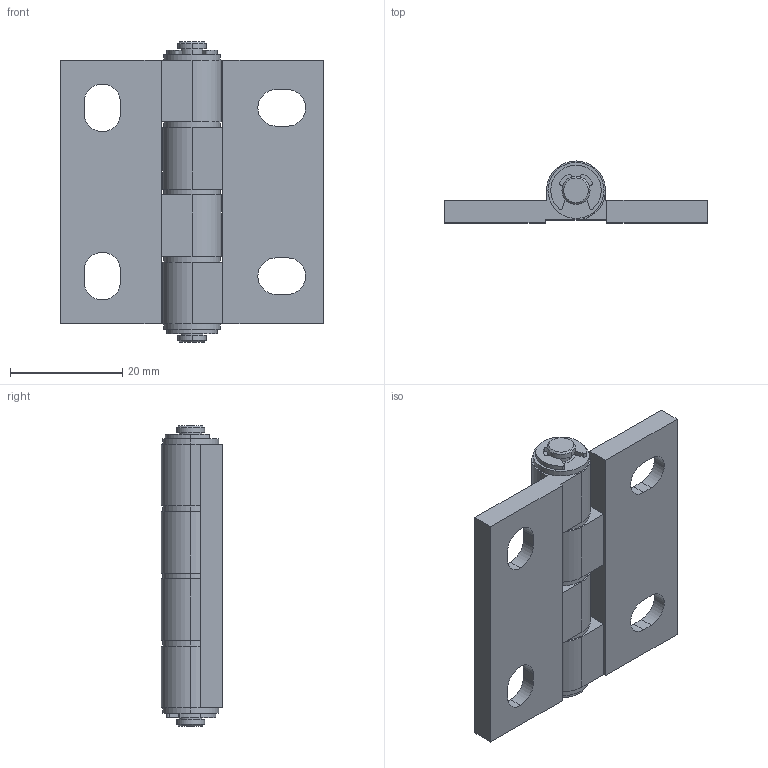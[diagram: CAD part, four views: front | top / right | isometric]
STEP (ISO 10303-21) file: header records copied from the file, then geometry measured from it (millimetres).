
FILE_DESCRIPTION (( 'STEP AP203' ), '1' );
FILE_NAME ('SK2-168-9.STEP', '2020-01-03T01:27:39', ( 'admin' ), ( 'Microsoft' ), 'SwSTEP 2.0', 'SolidWorks 2018', '' );
FILE_SCHEMA (( 'CONFIG_CONTROL_DESIGN' ));
Length unit declared in the file: millimetre
Products named in the file (6): 2-168-9-F1; 2-168-9-F2; 2-168-9-F3; 2-168-9-F4; e rings gb_GB_CONNECTING_PIECE_RINGS_HR 4; SK2-168-9
Assembly tree (10 placements, depth 2):
  SK2-168-9
    2-168-9-F1
    2-168-9-F2
    2-168-9-F3  x5
    2-168-9-F4
    e rings gb_GB_CONNECTING_PIECE_RINGS_HR 4  x2
Bounding box: 47 x 11 x 53.5 mm (x, y, z)
Volume: 10231.5 mm3; surface area: 8997.1 mm2
Topology: 10 solids, 10 shells, 180 faces, 452 edges, 300 vertices
Faces by surface type: cylinder 98, plane 78, cone 4
Entity records: 4874 total; most frequent: DIRECTION 764, CARTESIAN_POINT 707, ORIENTED_EDGE 676, EDGE_CURVE 338, AXIS2_PLACEMENT_3D 281, VERTEX_POINT 224, VECTOR 202, LINE 202
